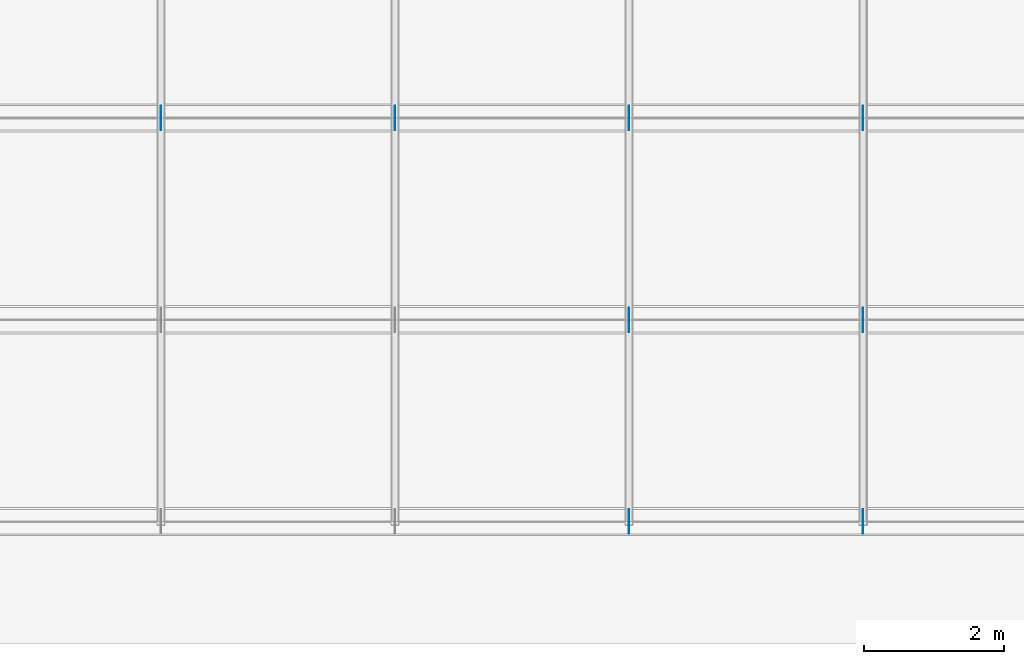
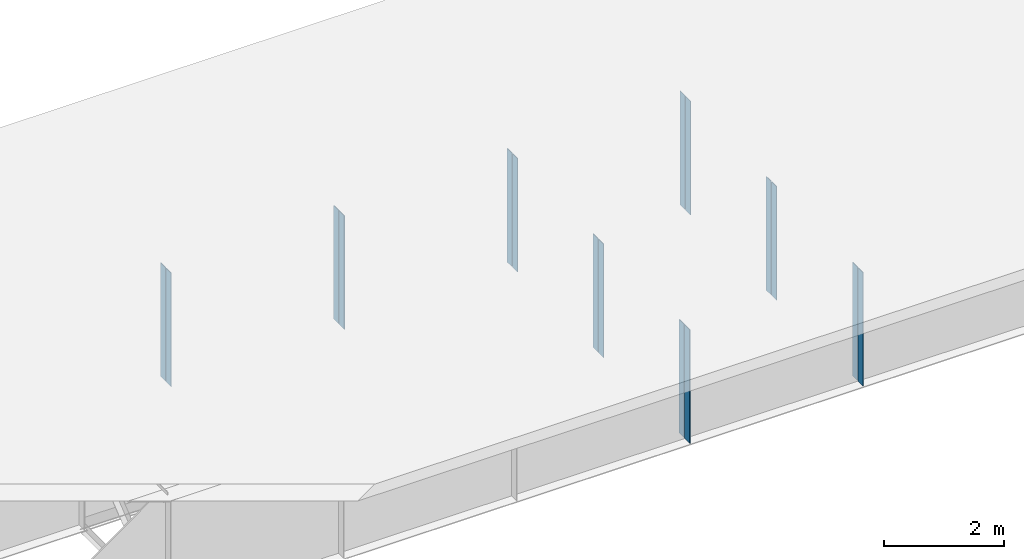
# One storey, part 11 of 15: 16 plates.
"""IFC4 building model written with IfcOpenShell, lengths in metres."""

from ifc_helpers import new_model, si_unit, frame, origin, origin_with_axes, origin_2d_with_axis, place, context, subcontext, project, spatial, rectangle, extrude, element, save


model = new_model("IFC4")

# Units and contexts
model_context = context("Model", 3, precision=1e-05, world=origin())
body_context = subcontext(model_context, "Body", "Model", "MODEL_VIEW")
ifc_project = project(units=[si_unit("LENGTHUNIT", "METRE"), si_unit("AREAUNIT", "SQUARE_METRE"), si_unit("VOLUMEUNIT", "CUBIC_METRE"), si_unit("PLANEANGLEUNIT", "RADIAN")], contexts=[model_context])

# Site, building, storey
site_placement = place(None, origin_with_axes())
site = spatial("IfcSite", under=ifc_project, at=site_placement, Name="Default Site")
building_placement = place(site_placement, origin_with_axes())
building = spatial("IfcBuilding", under=site, at=building_placement, Name="Bridge Structure")
storey_placement = place(building_placement, origin_with_axes())
storey = spatial("IfcBuildingStorey", under=building, at=storey_placement, Name="Superstructure")

# Plates
for number, where, z_axis, x_axis, name in (
    (1, (26.664, -4.221, -1.157), (0.0, 0.0, 1.0), (1.0, 0.0, 0.0), "Intermediate Stiffener 1"),
    (2, (26.664, -4.404, -1.157), (0.0, 0.0, 1.0), (1.0, 0.0, 0.0), "Intermediate Stiffener 1"),
    (3, (29.997, -4.221, -1.157), (0.0, 0.0, 1.0), (1.0, 0.0, 0.0), "Intermediate Stiffener 1"),
    (4, (29.997, -4.404, -1.157), (0.0, 0.0, 1.0), (1.0, 0.0, 0.0), "Intermediate Stiffener 1"),
    (5, (26.664, -1.346, -1.157), (0.0, 0.0, 1.0), (1.0, 0.0, 0.0), "Intermediate Stiffener 2"),
    (6, (26.664, -1.5290000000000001, -1.157), (0.0, 0.0, 1.0), (1.0, 0.0, 0.0), "Intermediate Stiffener 2"),
    (7, (29.997, -1.346, -1.157), (0.0, 0.0, 1.0), (1.0, 0.0, 0.0), "Intermediate Stiffener 2"),
    (8, (29.997, -1.5290000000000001, -1.157), (0.0, 0.0, 1.0), (1.0, 0.0, 0.0), "Intermediate Stiffener 2"),
    (9, (19.998, 1.5290000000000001, -1.157), (0.0, 0.0, 1.0), (1.0, 0.0, 0.0), "Intermediate Stiffener 3"),
    (10, (19.998, 1.346, -1.157), (0.0, 0.0, 1.0), (1.0, 0.0, 0.0), "Intermediate Stiffener 3"),
    (11, (23.331, 1.5290000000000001, -1.157), (0.0, 0.0, 1.0), (1.0, 0.0, 0.0), "Intermediate Stiffener 3"),
    (12, (23.331, 1.346, -1.157), (0.0, 0.0, 1.0), (1.0, 0.0, 0.0), "Intermediate Stiffener 3"),
    (13, (26.664, 1.5290000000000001, -1.157), (0.0, 0.0, 1.0), (1.0, 0.0, 0.0), "Intermediate Stiffener 3"),
    (14, (26.664, 1.346, -1.157), (0.0, 0.0, 1.0), (1.0, 0.0, 0.0), "Intermediate Stiffener 3"),
    (15, (29.997, 1.5290000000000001, -1.157), (0.0, 0.0, 1.0), (1.0, 0.0, 0.0), "Intermediate Stiffener 3"),
    (16, (29.997, 1.346, -1.157), (0.0, 0.0, 1.0), (1.0, 0.0, 0.0), "Intermediate Stiffener 3"),
):
    element("IfcPlate", number, at=place(storey_placement, frame(where, z_axis=z_axis, x_axis=x_axis)), inside=storey, Name=name, context=body_context, shape_type="SweptSolid", body=[
        extrude(rectangle(XDim=0.012, YDim=0.167, at=origin_2d_with_axis()), origin_with_axes(), (0.0, 0.0, 1.0), 2.314),
    ])

save(model, "model.ifc")
